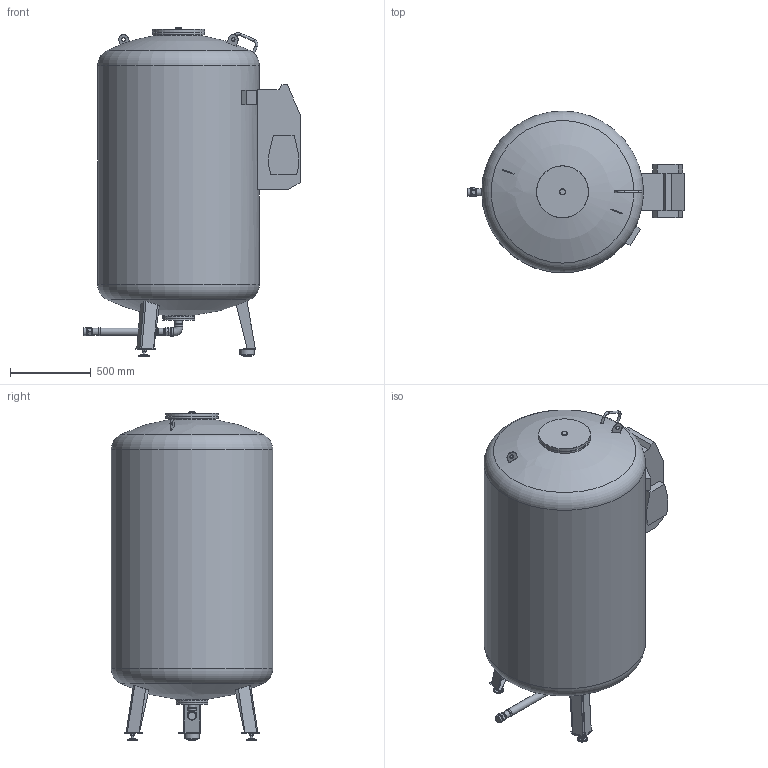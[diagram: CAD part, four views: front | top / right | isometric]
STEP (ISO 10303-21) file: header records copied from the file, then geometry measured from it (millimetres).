
FILE_DESCRIPTION(/* description */ (''),/* implementation_level */ '2;1');
FILE_NAME(/* name */ '\\DATASERVER\data\Flamco\3D-Modellen\Inventor\Flamcomat\2021_Flamcomat MK-U G4\flamcomat_mk-u_g4_1200_10.stp',/* time_stamp */ '2021-11-29T10:48:19+01:00',/* author */ ('kasius'),/* organization */ (''),/* preprocessor_version */ 'ST-DEVELOPER v17',/* originating_system */ 'Autodesk Inventor 2018',/* authorisation */ '');
FILE_SCHEMA (('AUTOMOTIVE_DESIGN { 1 0 10303 214 3 1 1 }'));
Length unit declared in the file: millimetre
Products named in the file (1): flamcomat_mk-u_g4_1200_10
Bounding box: 1338.24 x 1000 x 2030.5 mm (x, y, z)
Volume: 1311057412.2 mm3; surface area: 7428787.7 mm2
Topology: 5 solids, 5 shells, 323 faces, 860 edges, 582 vertices
Faces by surface type: plane 172, cylinder 72, cone 71, torus 5, sphere 2, bspline 1
Full cylindrical faces by diameter (mm): 15 x3, 16 x2, 20 x2, 24 x2, 33 x2, 38.75 x1, 41.7 x2, 43 x2, 46.1 x1, 47.5 x4, 48 x2, 48.3 x1, 53.6 x2, 55 x2, 65 x2, 90 x1, 162 x1, 198 x2, 279.133 x1, 322 x2, 1000 x1
Entity records: 10497 total; most frequent: CARTESIAN_POINT 2023, DIRECTION 1783, ORIENTED_EDGE 1720, EDGE_CURVE 860, AXIS2_PLACEMENT_3D 679, VERTEX_POINT 582, LINE 425, VECTOR 425
